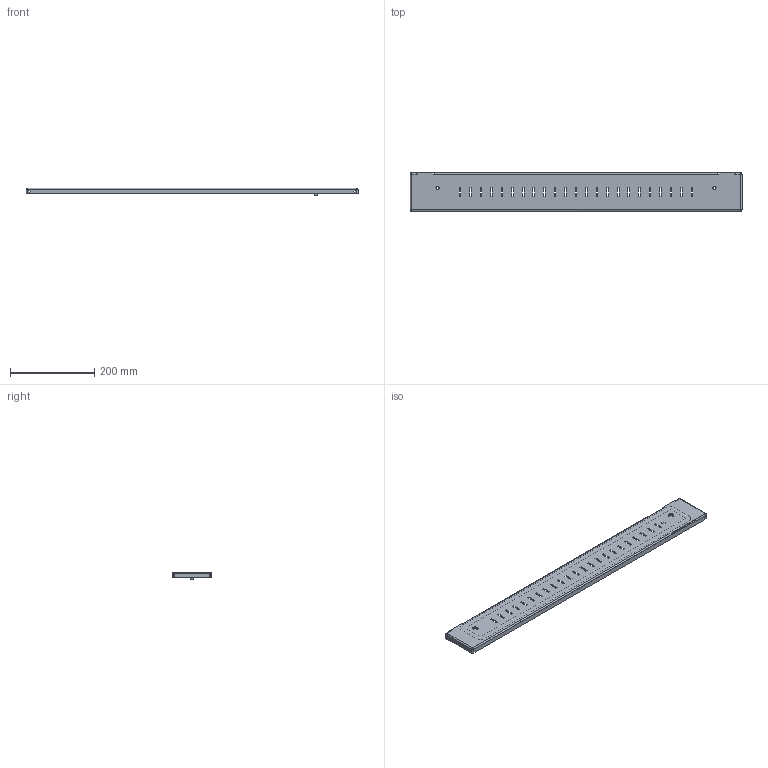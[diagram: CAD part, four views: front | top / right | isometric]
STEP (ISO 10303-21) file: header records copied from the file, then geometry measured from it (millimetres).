
FILE_DESCRIPTION(('STEP AP203'), '1');
FILE_NAME('Ïàíåëè êîìïåíñàöèîííûå ëèöåâûå ïåðôîðèðîâàííûå Â91õØ800 ìì OptiBox M (2 øò) 419555 ÊÝÀÇ', '', ('UNSPECIFIED'), ('UNSPECIFIED'), 'C3D Converter', 'C3D Toolkit', '');
FILE_SCHEMA(('CONFIG_CONTROL_DESIGN'));
Length unit declared in the file: millimetre
Bounding box: 786.4 x 91.5 x 18.9 mm (x, y, z)
Volume: 232868.2 mm3; surface area: 233774.9 mm2
Topology: 3 solids, 3 shells, 230 faces, 593 edges, 374 vertices
Faces by surface type: plane 179, cylinder 43, bspline 8
Full cylindrical faces by diameter (mm): 0.75 x1, 1 x1, 5 x2, 7.3 x2, 8 x1, 9.3 x1, 13 x1, 13.5 x2
Entity records: 9832 total; most frequent: CARTESIAN_POINT 2423, ORIENTED_EDGE 1164, DIRECTION 1046, EDGE_CURVE 582, LINE 492, VECTOR 492, VERTEX_POINT 374, EDGE_LOOP 302
